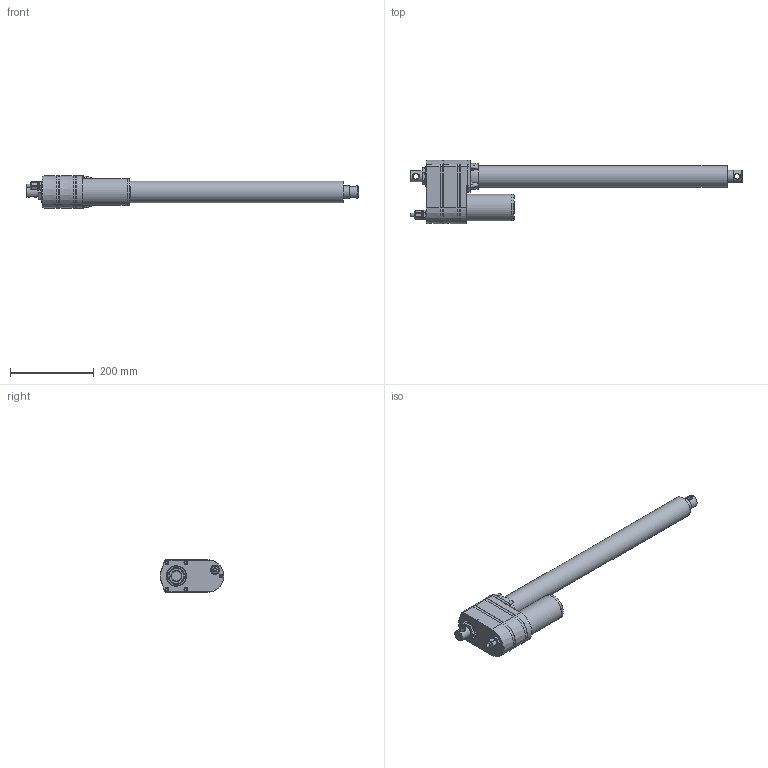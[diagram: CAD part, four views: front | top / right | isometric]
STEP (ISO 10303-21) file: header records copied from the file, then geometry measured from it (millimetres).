
FILE_DESCRIPTION(/* description */ ('STEP AP203'),/* implementation_level */ '2;1');
FILE_NAME(/* name */ 'ID10K-12-G4A-40-457-0000L50(0)',/* time_stamp */ '2023-08-17T12:29:24+02:00',/* author */ ('License CC BY-ND 4.0'),/* organization */ ('CADENAS'),/* preprocessor_version */ 'ST-DEVELOPER v19.3',/* originating_system */ 'PARTsolutions',/* authorisation */ ' ');
FILE_SCHEMA (('CONFIG_CONTROL_DESIGN'));
Length unit declared in the file: millimetre
Products named in the file (3): ID10K-12-G4A-40-457-0000L50(0); ID10-12-G5A-40-457-0000L500(0)_rod; ID10-12-G5A-40-457-0000L500(0)_body
Assembly tree (2 placements, depth 2):
  ID10K-12-G4A-40-457-0000L50(0)
    ID10-12-G5A-40-457-0000L500(0)_rod
    ID10-12-G5A-40-457-0000L500(0)_body
Bounding box: 790.5 x 151.7 x 77.2 mm (x, y, z)
Volume: 2738500.9 mm3; surface area: 286538.7 mm2
Topology: 2 solids, 2 shells, 1255 faces, 3002 edges, 1786 vertices
Faces by surface type: plane 1127, cylinder 67, cone 35, bspline 16, torus 10
Full cylindrical faces by diameter (mm): 7.2 x1, 8.5 x7, 9 x5, 13 x2, 15.75 x2, 21 x1, 26 x1, 28 x1, 28.6 x2, 28.62 x1, 48.2 x1, 50.8 x1, 63.2 x1, 63.5 x2
Entity records: 44399 total; most frequent: CARTESIAN_POINT 6399, DIRECTION 6304, ORIENTED_EDGE 5876, EDGE_CURVE 2938, AXIS2_PLACEMENT_3D 2178, LINE 1948, VECTOR 1948, VERTEX_POINT 1772
